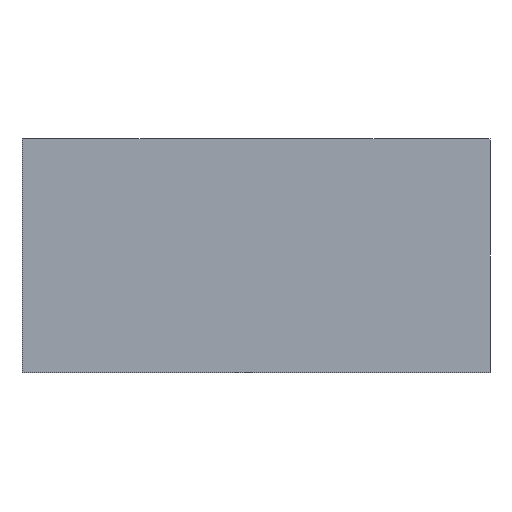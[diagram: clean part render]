
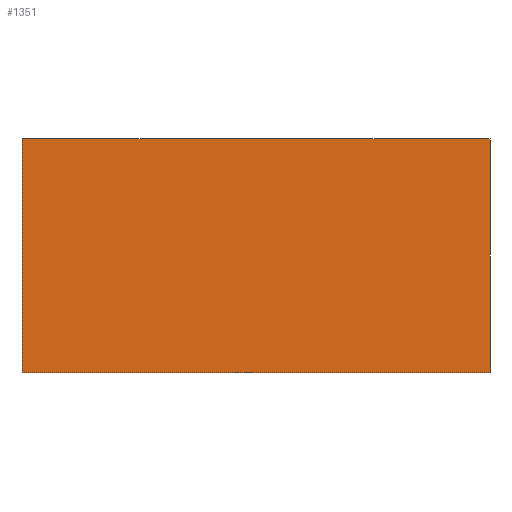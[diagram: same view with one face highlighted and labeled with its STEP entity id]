
A CAD part, front view. The second image highlights one B-rep face of the part: STEP entity #1351.
In plain terms, the highlighted planar face has unit normal (0, -1, 0) as drawn and (0, 0, 1) by its records, which use the part's own axes.
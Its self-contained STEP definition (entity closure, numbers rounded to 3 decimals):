
#99=FACE_OUTER_BOUND('',#182,.T.);
#182=EDGE_LOOP('',(#1164,#1165,#1166,#1167));
#351=LINE('',#2165,#532);
#353=LINE('',#2169,#534);
#355=LINE('',#2173,#536);
#357=LINE('',#2176,#538);
#532=VECTOR('',#1786,10.);
#534=VECTOR('',#1790,10.);
#536=VECTOR('',#1794,10.);
#538=VECTOR('',#1798,10.);
#653=VERTEX_POINT('',#2162);
#654=VERTEX_POINT('',#2164);
#655=VERTEX_POINT('',#2168);
#656=VERTEX_POINT('',#2172);
#823=EDGE_CURVE('',#654,#653,#351,.T.);
#825=EDGE_CURVE('',#655,#654,#353,.T.);
#827=EDGE_CURVE('',#656,#655,#355,.T.);
#829=EDGE_CURVE('',#653,#656,#357,.T.);
#1164=ORIENTED_EDGE('',*,*,#829,.T.);
#1165=ORIENTED_EDGE('',*,*,#827,.T.);
#1166=ORIENTED_EDGE('',*,*,#825,.T.);
#1167=ORIENTED_EDGE('',*,*,#823,.T.);
#1274=PLANE('',#1483);
#1351=ADVANCED_FACE('',(#99),#1274,.T.);
#1483=AXIS2_PLACEMENT_3D('',#2177,#1799,#1800);
#1786=DIRECTION('',(0.,1.,0.));
#1790=DIRECTION('',(1.,0.,0.));
#1794=DIRECTION('',(0.,-1.,0.));
#1798=DIRECTION('',(-1.,0.,0.));
#1799=DIRECTION('center_axis',(0.,0.,1.));
#1800=DIRECTION('ref_axis',(1.,0.,0.));
#2162=CARTESIAN_POINT('',(40.,20.,5.));
#2164=CARTESIAN_POINT('',(40.,-20.,5.));
#2165=CARTESIAN_POINT('',(40.,-20.,5.));
#2168=CARTESIAN_POINT('',(-40.,-20.,5.));
#2169=CARTESIAN_POINT('',(-40.,-20.,5.));
#2172=CARTESIAN_POINT('',(-40.,20.,5.));
#2173=CARTESIAN_POINT('',(-40.,20.,5.));
#2176=CARTESIAN_POINT('',(40.,20.,5.));
#2177=CARTESIAN_POINT('Origin',(0.,0.,5.));
